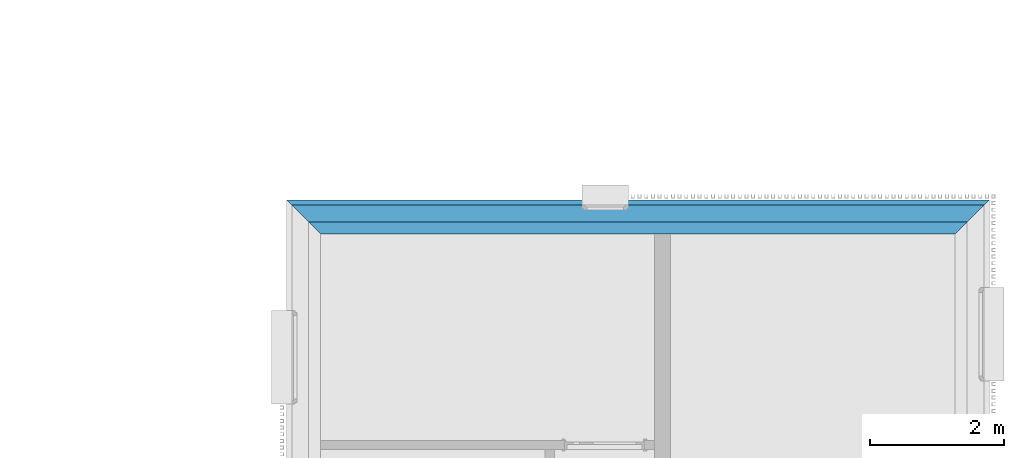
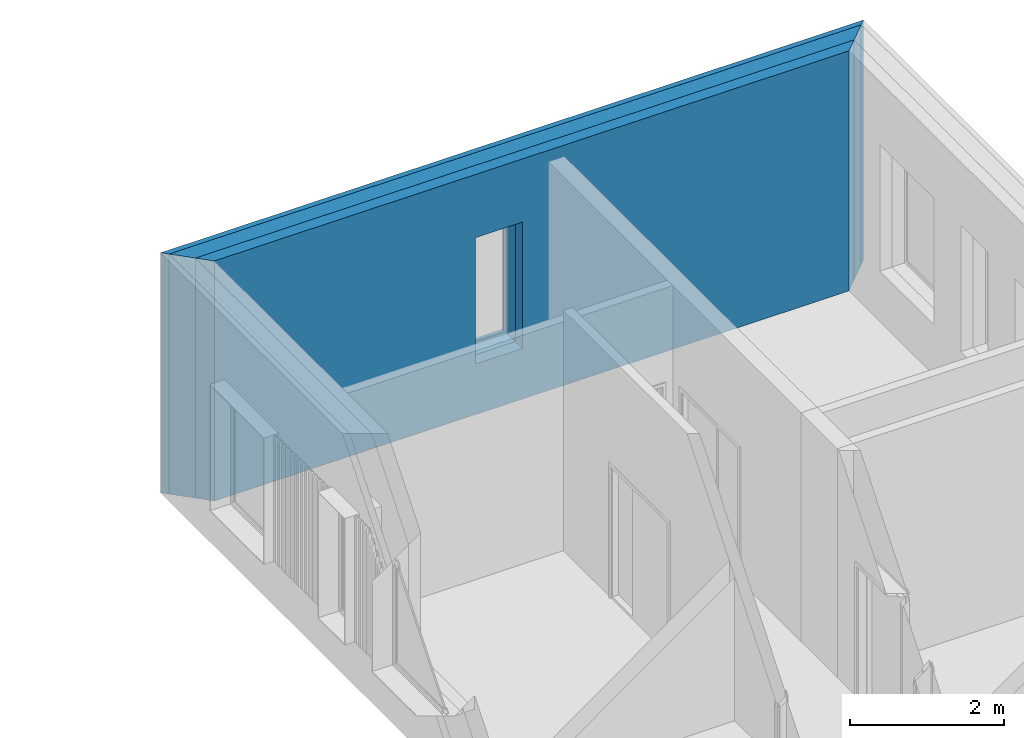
# One storey, part 45 of 100: 3 building element parts, 1 opening, 1 element without a shape of its own.
"""IFC2X3 building model written with IfcOpenShell, lengths in millimetres."""

from ifc_helpers import new_model, entity, si_unit, converted_unit, derived_unit, money_unit, direction, frame, origin_with_axes, origin_2d_with_axis, place, context, subcontext, project, spatial, polyline, rectangle, outline, extrude, material, type_object, element, aggregate, save


model = new_model("IFC2X3")

# Units and contexts
model_context = context("Model", 3, precision=0.01, world=origin_with_axes(), true_north=direction((0.0, 1.0)))
body_context = subcontext(model_context, "Body", "Model", "MODEL_VIEW")
ifc_project = project(units=[si_unit("LENGTHUNIT", "METRE", prefix="MILLI"), si_unit("AREAUNIT", "SQUARE_METRE"), si_unit("VOLUMEUNIT", "CUBIC_METRE"), converted_unit("PLANEANGLEUNIT", "DEGREE", entity("IfcPlaneAngleMeasure", 0.0174532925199), si_unit("PLANEANGLEUNIT", "RADIAN"), dimensions=[0, 0, 0, 0, 0, 0, 0]), si_unit("SOLIDANGLEUNIT", "STERADIAN"), money_unit("EUR"), converted_unit("TIMEUNIT", "Year", entity("IfcTimeMeasure", 31556926.0), si_unit("TIMEUNIT", "SECOND"), dimensions=[0, 0, 1, 0, 0, 0, 0]), si_unit("MASSUNIT", "GRAM", prefix="KILO"), si_unit("THERMODYNAMICTEMPERATUREUNIT", "DEGREE_CELSIUS"), si_unit("LUMINOUSINTENSITYUNIT", "LUMEN"), si_unit("ENERGYUNIT", "JOULE", prefix="MEGA"), derived_unit("THERMALCONDUCTANCEUNIT", [(si_unit("POWERUNIT", "WATT"), 1), (si_unit("LENGTHUNIT", "METRE"), -1), (si_unit("THERMODYNAMICTEMPERATUREUNIT", "KELVIN"), -1)]), derived_unit("SPECIFICHEATCAPACITYUNIT", [(si_unit("ENERGYUNIT", "JOULE"), 1), (si_unit("MASSUNIT", "GRAM", prefix="KILO"), -1), (si_unit("THERMODYNAMICTEMPERATUREUNIT", "KELVIN"), -1)]), derived_unit("MASSDENSITYUNIT", [(si_unit("MASSUNIT", "GRAM", prefix="KILO"), 1), (si_unit("VOLUMEUNIT", "CUBIC_METRE"), -1)])], contexts=[model_context])

# Site, building, storey
site_placement = place(None, origin_with_axes())
site = spatial("IfcSite", under=ifc_project, at=site_placement, Name="Politse- ja Piirivalveameti ning Päästeameti ühishoone", CompositionType="ELEMENT")
building_placement = place(site_placement, origin_with_axes())
building = spatial("IfcBuilding", under=site, at=building_placement, Name="Politse- ja Piirivalveameti ning Päästeameti ühishoone", CompositionType="ELEMENT")
storey_placement = place(building_placement, frame((0.0, 0.0, 3800.0), z_axis=(0.0, 0.0, 1.0), x_axis=(1.0, 0.0, 0.0)))
storey = spatial("IfcBuildingStorey", under=building, at=storey_placement, Name="Teine korrus", CompositionType="ELEMENT", Elevation=3800.0)

# Wall, opening, building element parts
wall_type = type_object("IfcWallType", Name="VS-01_välissein 510", PredefinedType="NOTDEFINED")
wall_placement = place(storey_placement, frame((69660.5664257, 37499.9521318, 0.0), z_axis=(0.0, 0.0, 1.0), x_axis=(-1.0, 0.0, 0.0)))
wall = element("IfcWall", 1, at=wall_placement, inside=storey, type_object=wall_type, Name="VS-01")
opening_placement = place(wall_placement, frame((5239.50325954, 0.0, 800.0), z_axis=(0.0, 0.0, 1.0), x_axis=(1.0, 0.0, 0.0)))
element("IfcOpeningElement", 2, at=opening_placement, cuts=wall, Name="A-01", context=body_context, shape_type="SweptSolid", body=[
    extrude(rectangle(XDim=700.0, YDim=2000.0, at=origin_2d_with_axis()), frame((0.0, -430.0, 1000.0), z_axis=(0.0, 1.0, 0.0), x_axis=(-1.0, 0.0, 0.0)), (0.0, 0.0, 1.0), 940.0),
    extrude(rectangle(XDim=700.0, YDim=2000.0, at=origin_2d_with_axis()), frame((0.0, -430.0, 1000.0), z_axis=(0.0, -1.0, 0.0), x_axis=(-1.0, 0.0, 0.0)), (0.0, 0.0, 1.0), 590.0),
])
ifc_material_1 = material(Name="KON-04_Betoon - Konstuktsioon")
building_element_part_1_placement = place(wall_placement, origin_with_axes())
building_element_part_1 = element("IfcBuildingElementPart", 3, at=building_element_part_1_placement, material=ifc_material_1, Name="KON-04_Betoon - Konstuktsioon", context=body_context, shape_type="SweptSolid", body=[
    extrude(outline(polyline([(-180.0, -180.0), (9680.01451389, -180.0), (9500.01451389, 0.0), (0.0, 0.0), (-180.0, -180.0)])), origin_with_axes(), (0.0, 0.0, 1.0), 3800.0),
])
ifc_material_2 = material(Name="SOJ-06_Soojustus - Plastik Kõva")
building_element_part_2_placement = place(wall_placement, origin_with_axes())
building_element_part_2 = element("IfcBuildingElementPart", 4, at=building_element_part_2_placement, material=ifc_material_2, Name="SOJ-06_Soojustus - Plastik Kõva", context=body_context, shape_type="SweptSolid", body=[
    extrude(outline(polyline([(-430.0, -430.0), (9930.01451389, -430.0), (9680.01451389, -180.0), (-180.0, -180.0), (-430.0, -430.0)])), origin_with_axes(), (0.0, 0.0, 1.0), 3800.0),
])
building_element_part_3_placement = place(wall_placement, origin_with_axes())
building_element_part_3 = element("IfcBuildingElementPart", 5, at=building_element_part_3_placement, material=ifc_material_1, Name="KON-04_Betoon - Konstuktsioon", context=body_context, shape_type="SweptSolid", body=[
    extrude(outline(polyline([(-510.0, -510.0), (10010.0145139, -510.0), (9930.01451389, -430.0), (-430.0, -430.0), (-510.0, -510.0)])), origin_with_axes(), (0.0, 0.0, 1.0), 3800.0),
])
aggregate(wall, [building_element_part_1, building_element_part_2, building_element_part_3])

save(model, "model.ifc")
